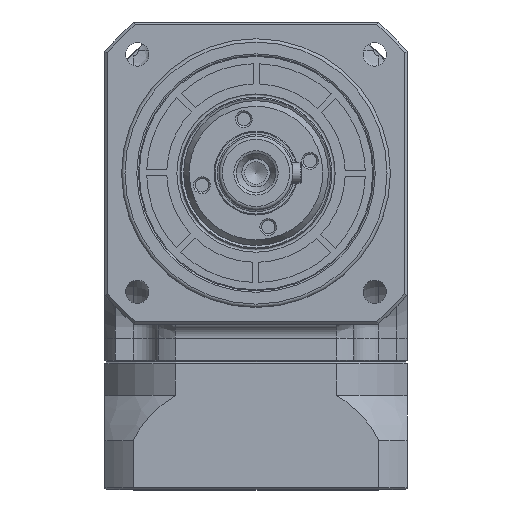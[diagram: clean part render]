
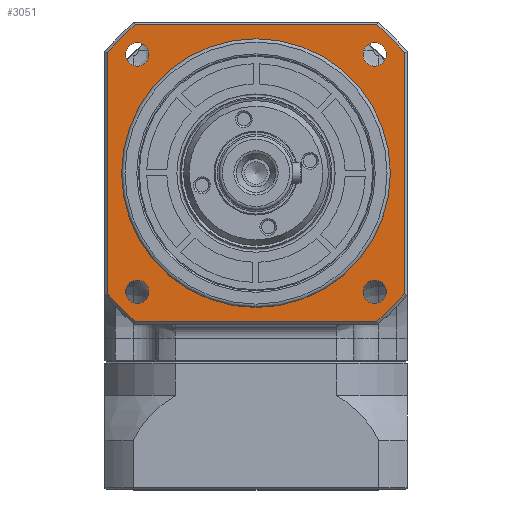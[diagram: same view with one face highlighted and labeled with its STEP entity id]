
A CAD part, top view. The second image highlights one B-rep face of the part: STEP entity #3051.
In plain terms, the highlighted planar face has unit normal (0, 0, 1).
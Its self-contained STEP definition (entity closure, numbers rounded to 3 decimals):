
#1139=PLANE('',#12533);
#1662=LINE('',#20588,#2330);
#1663=LINE('',#20589,#2331);
#1664=LINE('',#20593,#2332);
#1665=LINE('',#20594,#2333);
#2330=VECTOR('',#15133,1.);
#2331=VECTOR('',#15134,1.);
#2332=VECTOR('',#15137,1.);
#2333=VECTOR('',#15138,1.);
#3051=ADVANCED_FACE('',(#3960,#3961,#3962,#3963,#3964,#3965),#1139,.T.);
#3960=FACE_BOUND('',#4864,.T.);
#3961=FACE_BOUND('',#4865,.T.);
#3962=FACE_BOUND('',#4866,.T.);
#3963=FACE_BOUND('',#4867,.T.);
#3964=FACE_BOUND('',#4868,.T.);
#3965=FACE_BOUND('',#4869,.T.);
#4864=EDGE_LOOP('',(#7075));
#4865=EDGE_LOOP('',(#7076));
#4866=EDGE_LOOP('',(#7077));
#4867=EDGE_LOOP('',(#7078));
#4868=EDGE_LOOP('',(#7079,#7080,#7081,#7082,#7083,#7084,#7085,#7086));
#4869=EDGE_LOOP('',(#7087));
#7075=ORIENTED_EDGE('',*,*,#10424,.T.);
#7076=ORIENTED_EDGE('',*,*,#10425,.T.);
#7077=ORIENTED_EDGE('',*,*,#10426,.T.);
#7078=ORIENTED_EDGE('',*,*,#10427,.T.);
#7079=ORIENTED_EDGE('',*,*,#10354,.F.);
#7080=ORIENTED_EDGE('',*,*,#10428,.T.);
#7081=ORIENTED_EDGE('',*,*,#10356,.F.);
#7082=ORIENTED_EDGE('',*,*,#10429,.T.);
#7083=ORIENTED_EDGE('',*,*,#10430,.F.);
#7084=ORIENTED_EDGE('',*,*,#10431,.T.);
#7085=ORIENTED_EDGE('',*,*,#10350,.F.);
#7086=ORIENTED_EDGE('',*,*,#10432,.T.);
#7087=ORIENTED_EDGE('',*,*,#10423,.T.);
#9016=VERTEX_POINT('',#20375);
#9017=VERTEX_POINT('',#20377);
#9020=VERTEX_POINT('',#20390);
#9021=VERTEX_POINT('',#20392);
#9022=VERTEX_POINT('',#20399);
#9023=VERTEX_POINT('',#20400);
#9073=VERTEX_POINT('',#20578);
#9074=VERTEX_POINT('',#20581);
#9075=VERTEX_POINT('',#20583);
#9076=VERTEX_POINT('',#20585);
#9077=VERTEX_POINT('',#20587);
#9078=VERTEX_POINT('',#20590);
#9079=VERTEX_POINT('',#20592);
#10350=EDGE_CURVE('',#9016,#9017,#11393,.T.);
#10354=EDGE_CURVE('',#9020,#9021,#11395,.T.);
#10356=EDGE_CURVE('',#9022,#9023,#11396,.T.);
#10423=EDGE_CURVE('',#9073,#9073,#11425,.T.);
#10424=EDGE_CURVE('',#9074,#9074,#11426,.T.);
#10425=EDGE_CURVE('',#9075,#9075,#11427,.T.);
#10426=EDGE_CURVE('',#9076,#9076,#11428,.T.);
#10427=EDGE_CURVE('',#9077,#9077,#11429,.T.);
#10428=EDGE_CURVE('',#9020,#9023,#1662,.T.);
#10429=EDGE_CURVE('',#9022,#9078,#1663,.T.);
#10430=EDGE_CURVE('',#9079,#9078,#11430,.T.);
#10431=EDGE_CURVE('',#9079,#9017,#1664,.T.);
#10432=EDGE_CURVE('',#9016,#9021,#1665,.T.);
#11393=CIRCLE('',#12473,56.95);
#11395=CIRCLE('',#12476,56.95);
#11396=CIRCLE('',#12478,56.95);
#11425=CIRCLE('',#12526,40.);
#11426=CIRCLE('',#12528,3.5);
#11427=CIRCLE('',#12529,3.5);
#11428=CIRCLE('',#12530,3.5);
#11429=CIRCLE('',#12531,3.5);
#11430=CIRCLE('',#12532,56.95);
#12473=AXIS2_PLACEMENT_3D('',#20376,#14991,#14992);
#12476=AXIS2_PLACEMENT_3D('',#20391,#14997,#14998);
#12478=AXIS2_PLACEMENT_3D('',#20398,#15001,#15002);
#12526=AXIS2_PLACEMENT_3D('',#20577,#15121,#15122);
#12528=AXIS2_PLACEMENT_3D('',#20580,#15125,#15126);
#12529=AXIS2_PLACEMENT_3D('',#20582,#15127,#15128);
#12530=AXIS2_PLACEMENT_3D('',#20584,#15129,#15130);
#12531=AXIS2_PLACEMENT_3D('',#20586,#15131,#15132);
#12532=AXIS2_PLACEMENT_3D('',#20591,#15135,#15136);
#12533=AXIS2_PLACEMENT_3D('',#20595,#15139,#15140);
#14991=DIRECTION('',(0.,0.,-1.));
#14992=DIRECTION('',(-1.,0.,0.));
#14997=DIRECTION('',(0.,0.,-1.));
#14998=DIRECTION('',(-1.,0.,0.));
#15001=DIRECTION('',(0.,0.,-1.));
#15002=DIRECTION('',(-1.,0.,0.));
#15121=DIRECTION('',(0.,0.,-1.));
#15122=DIRECTION('',(-1.,0.,0.));
#15125=DIRECTION('',(0.,0.,-1.));
#15126=DIRECTION('',(0.,-1.,0.));
#15127=DIRECTION('',(0.,0.,-1.));
#15128=DIRECTION('',(0.,-1.,0.));
#15129=DIRECTION('',(0.,0.,-1.));
#15130=DIRECTION('',(0.,-1.,0.));
#15131=DIRECTION('',(0.,0.,-1.));
#15132=DIRECTION('',(0.,-1.,0.));
#15133=DIRECTION('',(-1.,0.,0.));
#15134=DIRECTION('',(0.,-1.,0.));
#15135=DIRECTION('',(0.,0.,-1.));
#15136=DIRECTION('',(-1.,0.,0.));
#15137=DIRECTION('',(1.,0.,0.));
#15138=DIRECTION('',(0.,1.,0.));
#15139=DIRECTION('',(0.,0.,1.));
#15140=DIRECTION('',(1.,0.,0.));
#20375=CARTESIAN_POINT('',(44.2,20.088,85.85));
#20376=CARTESIAN_POINT('',(0.,56.,85.85));
#20377=CARTESIAN_POINT('',(35.912,11.8,85.85));
#20390=CARTESIAN_POINT('',(35.912,100.2,85.85));
#20391=CARTESIAN_POINT('',(0.,56.,85.85));
#20392=CARTESIAN_POINT('',(44.2,91.912,85.85));
#20398=CARTESIAN_POINT('',(0.,56.,85.85));
#20399=CARTESIAN_POINT('',(-44.2,91.912,85.85));
#20400=CARTESIAN_POINT('',(-35.912,100.2,85.85));
#20577=CARTESIAN_POINT('',(0.,56.,85.85));
#20578=CARTESIAN_POINT('',(-40.,56.,85.85));
#20580=CARTESIAN_POINT('',(-35.355,20.645,85.85));
#20581=CARTESIAN_POINT('',(-35.355,17.145,85.85));
#20582=CARTESIAN_POINT('',(-35.355,91.355,85.85));
#20583=CARTESIAN_POINT('',(-35.355,87.855,85.85));
#20584=CARTESIAN_POINT('',(35.355,91.355,85.85));
#20585=CARTESIAN_POINT('',(35.355,87.855,85.85));
#20586=CARTESIAN_POINT('',(35.355,20.645,85.85));
#20587=CARTESIAN_POINT('',(35.355,17.145,85.85));
#20588=CARTESIAN_POINT('',(-34.904,100.2,85.85));
#20589=CARTESIAN_POINT('',(-44.2,21.096,85.85));
#20590=CARTESIAN_POINT('',(-44.2,20.088,85.85));
#20591=CARTESIAN_POINT('',(0.,56.,85.85));
#20592=CARTESIAN_POINT('',(-35.912,11.8,85.85));
#20593=CARTESIAN_POINT('',(34.904,11.8,85.85));
#20594=CARTESIAN_POINT('',(44.2,90.904,85.85));
#20595=CARTESIAN_POINT('',(0.,56.,85.85));
